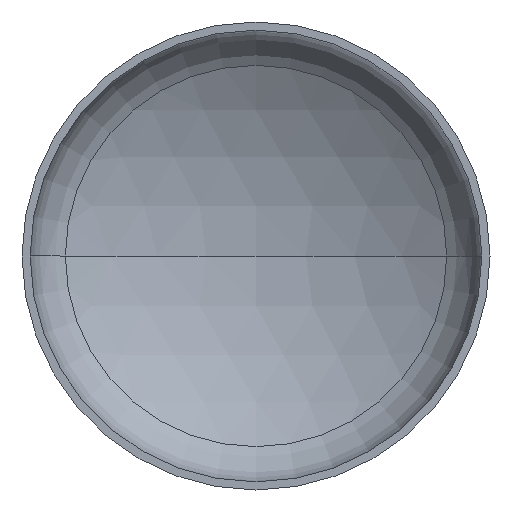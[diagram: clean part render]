
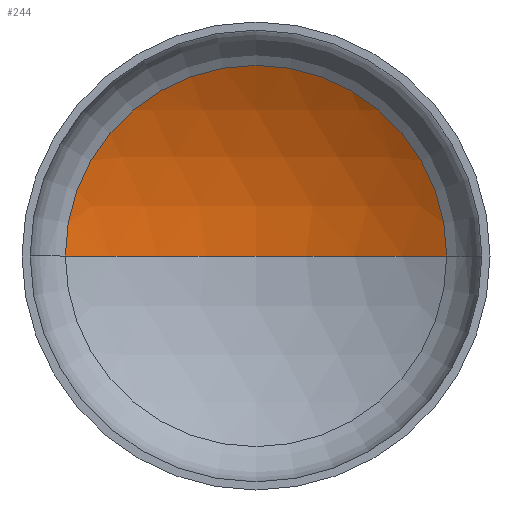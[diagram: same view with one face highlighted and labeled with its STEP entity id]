
A CAD part, front view. The second image highlights one B-rep face of the part: STEP entity #244.
In plain terms, the highlighted spherical face has radius 2560 mm.
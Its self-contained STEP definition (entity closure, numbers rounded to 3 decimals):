
#7 = ORIENTED_EDGE ( 'NONE', *, *, #354, .T. ) ;
#16 = AXIS2_PLACEMENT_3D ( 'NONE', #199, #353, #228 ) ;
#21 = AXIS2_PLACEMENT_3D ( 'NONE', #372, #248, #389 ) ;
#29 = AXIS2_PLACEMENT_3D ( 'NONE', #352, #226, #371 ) ;
#41 = VERTEX_POINT ( 'NONE', #288 ) ;
#52 = CARTESIAN_POINT ( 'NONE',  ( 0., 898.432, 0. ) ) ;
#67 = CARTESIAN_POINT ( 'NONE',  ( -1303.498, 541.724, 0. ) ) ;
#71 = AXIS2_PLACEMENT_3D ( 'NONE', #104, #189, #188 ) ;
#104 = CARTESIAN_POINT ( 'NONE',  ( 0., -1661.568, 0. ) ) ;
#111 = EDGE_LOOP ( 'NONE', ( #143, #134, #7 ) ) ;
#134 = ORIENTED_EDGE ( 'NONE', *, *, #343, .T. ) ;
#137 = VERTEX_POINT ( 'NONE', #52 ) ;
#143 = ORIENTED_EDGE ( 'NONE', *, *, #347, .F. ) ;
#188 = DIRECTION ( 'NONE',  ( -1., 0., 0. ) ) ;
#189 = DIRECTION ( 'NONE',  ( 0., 0., -1. ) ) ;
#199 = CARTESIAN_POINT ( 'NONE',  ( 0., 541.724, 0. ) ) ;
#214 = CIRCLE ( 'NONE', #29, 2560. ) ;
#226 = DIRECTION ( 'NONE',  ( 0., 0., -1. ) ) ;
#228 = DIRECTION ( 'NONE',  ( 1., 0., 0. ) ) ;
#242 = FACE_OUTER_BOUND ( 'NONE', #111, .T. ) ;
#244 = ADVANCED_FACE ( 'NONE', ( #242 ), #338, .F. ) ;
#248 = DIRECTION ( 'NONE',  ( 0., 0., 1. ) ) ;
#288 = CARTESIAN_POINT ( 'NONE',  ( 1303.498, 541.724, 0. ) ) ;
#309 = CIRCLE ( 'NONE', #16, 1303.498 ) ;
#311 = VERTEX_POINT ( 'NONE', #67 ) ;
#323 = CIRCLE ( 'NONE', #21, 2560. ) ;
#338 = SPHERICAL_SURFACE ( 'NONE', #71, 2560. ) ;
#343 = EDGE_CURVE ( 'NONE', #137, #41, #214, .T. ) ;
#347 = EDGE_CURVE ( 'NONE', #137, #311, #323, .T. ) ;
#352 = CARTESIAN_POINT ( 'NONE',  ( 0., -1661.568, 0. ) ) ;
#353 = DIRECTION ( 'NONE',  ( 0., -1., 0. ) ) ;
#354 = EDGE_CURVE ( 'NONE', #41, #311, #309, .T. ) ;
#371 = DIRECTION ( 'NONE',  ( -1., 0., 0. ) ) ;
#372 = CARTESIAN_POINT ( 'NONE',  ( 0., -1661.568, 0. ) ) ;
#389 = DIRECTION ( 'NONE',  ( 1., 0., 0. ) ) ;
